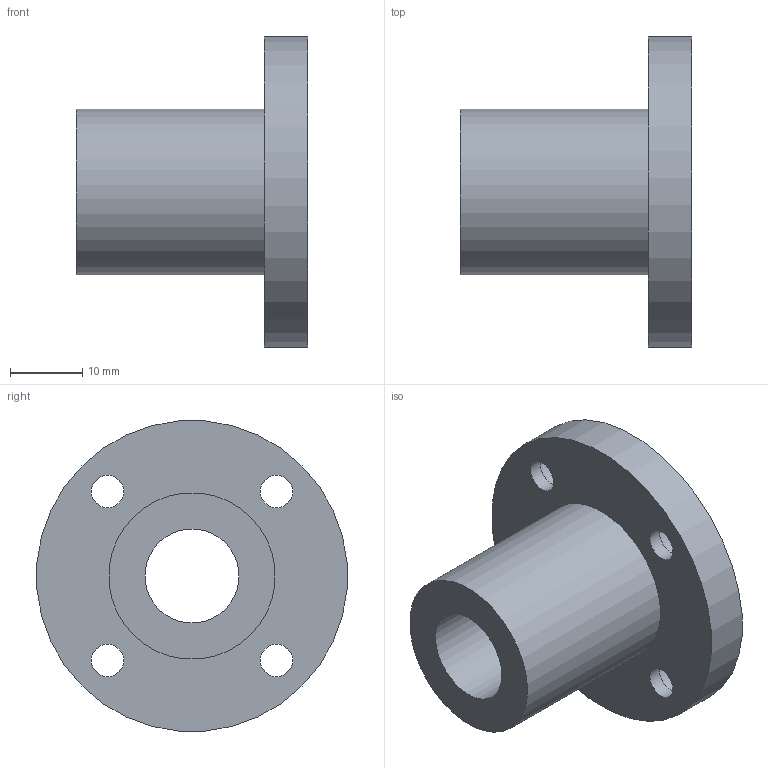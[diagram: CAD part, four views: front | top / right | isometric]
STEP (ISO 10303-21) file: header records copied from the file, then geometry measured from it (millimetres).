
FILE_DESCRIPTION(/* description */ (''),/* implementation_level */ '2;1');
FILE_NAME(/* name */ 'LMF13UU',/* time_stamp */ '2019-07-03T09:08:03+02:00',/* author */ ('VĂ©gh MĂˇtĂ©'),/* organization */ ('Bearing Kft'),/* preprocessor_version */ 'ST-DEVELOPER v16.7',/* originating_system */ 'DEX',/* authorisation */ $);
FILE_SCHEMA (('AUTOMOTIVE_DESIGN {1 0 10303 214 3 1 1}'));
Length unit declared in the file: millimetre
Products named in the file (1): LMF13UU
Bounding box: 32 x 42.84 x 42.84 mm (x, y, z)
Volume: 14421 mm3; surface area: 7017.4 mm2
Topology: 1 solids, 1 shells, 320 faces, 804 edges, 536 vertices
Faces by surface type: plane 246, bspline 60, cylinder 14
Full cylindrical faces by diameter (mm): 4.5 x4, 7.5 x4, 13 x1, 23 x1, 43 x1
Entity records: 12132 total; most frequent: CARTESIAN_POINT 4815, ORIENTED_EDGE 1584, DIRECTION 1222, EDGE_CURVE 792, LINE 644, VECTOR 644, VERTEX_POINT 536, EDGE_LOOP 392
